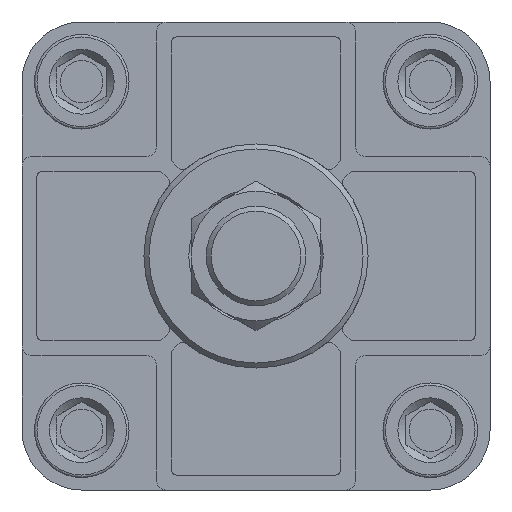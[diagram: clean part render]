
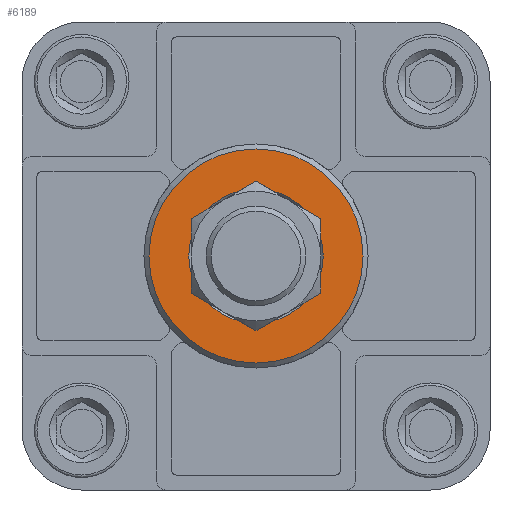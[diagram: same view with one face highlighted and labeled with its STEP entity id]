
A CAD part, front view. The second image highlights one B-rep face of the part: STEP entity #6189.
In plain terms, the highlighted planar face has unit normal (0, -1, 0).
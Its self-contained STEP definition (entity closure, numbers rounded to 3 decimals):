
#978=ORIENTED_EDGE('',*,*,#2241,.T.);
#979=ORIENTED_EDGE('',*,*,#2243,.T.);
#2241=EDGE_CURVE('',#2875,#2875,#3309,.T.);
#2243=EDGE_CURVE('',#2877,#2877,#3311,.F.);
#2875=VERTEX_POINT('',#8420);
#2877=VERTEX_POINT('',#8426);
#3309=CIRCLE('',#6489,13.5);
#3311=CIRCLE('',#6493,21.5);
#3545=EDGE_LOOP('',(#978));
#3546=EDGE_LOOP('',(#979));
#3903=FACE_BOUND('',#3545,.T.);
#3904=FACE_BOUND('',#3546,.T.);
#4253=PLANE('',#6492);
#6189=ADVANCED_FACE('',(#3903,#3904),#4253,.F.);
#6489=AXIS2_PLACEMENT_3D('',#8419,#7018,#7019);
#6492=AXIS2_PLACEMENT_3D('',#8424,#7024,#7025);
#6493=AXIS2_PLACEMENT_3D('',#8425,#7026,#7027);
#7018=DIRECTION('',(0.,1.,0.));
#7019=DIRECTION('',(0.,0.,1.));
#7024=DIRECTION('',(0.,1.,0.));
#7025=DIRECTION('',(0.,0.,1.));
#7026=DIRECTION('',(0.,1.,0.));
#7027=DIRECTION('',(0.,0.,1.));
#8419=CARTESIAN_POINT('',(0.,-56.,0.));
#8420=CARTESIAN_POINT('',(0.,-56.,13.5));
#8424=CARTESIAN_POINT('',(0.,-56.,0.));
#8425=CARTESIAN_POINT('',(0.,-56.,0.));
#8426=CARTESIAN_POINT('',(0.,-56.,21.5));
